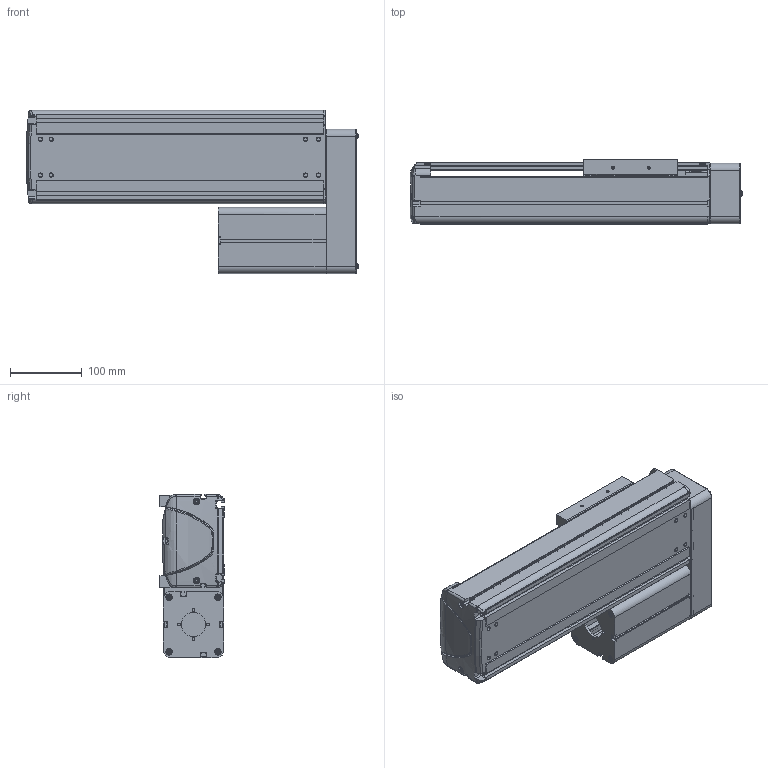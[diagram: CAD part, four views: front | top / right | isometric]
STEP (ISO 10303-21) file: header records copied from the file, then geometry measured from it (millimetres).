
FILE_DESCRIPTION((''),'2;1');
FILE_NAME('BE30E-UL-M_N-20_IGS_PRT','2017-06-17T',(' '),(''),'PRO/ENGINEER BY PARAMETRIC TECHNOLOGY CORPORATION, 2015030','PRO/ENGINEER BY PARAMETRIC TECHNOLOGY CORPORATION, 2015030','');
FILE_SCHEMA(('CONFIG_CONTROL_DESIGN'));
Products named in the file (1): BE30E-UL-M_N-20_IGS_PRT
Bounding box: 461.9 x 89.8 x 227 mm (x, y, z)
Volume: 1887768.3 mm3; surface area: 846115.5 mm2
Topology: 2 solids, 102 shells, 1941 faces, 5193 edges, 3364 vertices
Faces by surface type: plane 984, cylinder 761, cone 103, torus 39, bspline 30, sphere 24
Entity records: 62460 total; most frequent: CARTESIAN_POINT 13169, DIRECTION 10417, ORIENTED_EDGE 9934, EDGE_CURVE 5155, AXIS2_PLACEMENT_3D 3634, VERTEX_POINT 3364, VECTOR 3149, LINE 3149
